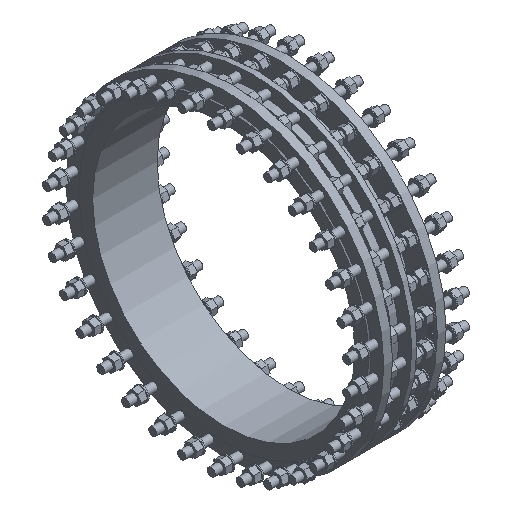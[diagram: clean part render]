
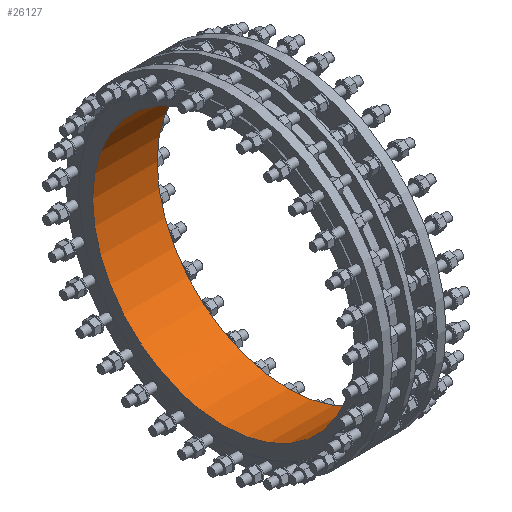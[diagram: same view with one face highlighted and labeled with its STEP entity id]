
A CAD part, isometric view. The second image highlights one B-rep face of the part: STEP entity #26127.
In plain terms, the highlighted cylindrical face has radius 600 mm (diameter 1200 mm), a full revolution.
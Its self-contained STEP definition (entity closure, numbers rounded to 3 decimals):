
#926 = CARTESIAN_POINT ( 'NONE',  ( 270., 0., 600. ) ) ;
#3364 = CARTESIAN_POINT ( 'NONE',  ( -25., 0., 0. ) ) ;
#4972 = EDGE_LOOP ( 'NONE', ( #38620 ) ) ;
#8272 = CIRCLE ( 'NONE', #38092, 600. ) ;
#10988 = FACE_OUTER_BOUND ( 'NONE', #37918, .T. ) ;
#11185 = ORIENTED_EDGE ( 'NONE', *, *, #14876, .F. ) ;
#14435 = FACE_OUTER_BOUND ( 'NONE', #4972, .T. ) ;
#14876 = EDGE_CURVE ( 'NONE', #45677, #45677, #8272, .T. ) ;
#16117 = CARTESIAN_POINT ( 'NONE',  ( -25., 0., 0. ) ) ;
#17390 = CYLINDRICAL_SURFACE ( 'NONE', #18846, 600. ) ;
#18846 = AXIS2_PLACEMENT_3D ( 'NONE', #3364, #48361, #32859 ) ;
#23666 = CARTESIAN_POINT ( 'NONE',  ( 270., 0., 0. ) ) ;
#24209 = DIRECTION ( 'NONE',  ( -1., 0., 0. ) ) ;
#26127 = ADVANCED_FACE ( 'NONE', ( #14435, #10988 ), #17390, .F. ) ;
#26297 = EDGE_CURVE ( 'NONE', #41331, #41331, #35334, .T. ) ;
#31519 = DIRECTION ( 'NONE',  ( -1., 0., 0. ) ) ;
#32859 = DIRECTION ( 'NONE',  ( 0., 0., 1. ) ) ;
#34978 = DIRECTION ( 'NONE',  ( 0., 0., 1. ) ) ;
#35334 = CIRCLE ( 'NONE', #46326, 600. ) ;
#37918 = EDGE_LOOP ( 'NONE', ( #11185 ) ) ;
#38092 = AXIS2_PLACEMENT_3D ( 'NONE', #23666, #31519, #34978 ) ;
#38620 = ORIENTED_EDGE ( 'NONE', *, *, #26297, .T. ) ;
#39208 = DIRECTION ( 'NONE',  ( 0., 0., 1. ) ) ;
#41331 = VERTEX_POINT ( 'NONE', #42055 ) ;
#42055 = CARTESIAN_POINT ( 'NONE',  ( -25., 0., 600. ) ) ;
#45677 = VERTEX_POINT ( 'NONE', #926 ) ;
#46326 = AXIS2_PLACEMENT_3D ( 'NONE', #16117, #24209, #39208 ) ;
#48361 = DIRECTION ( 'NONE',  ( -1., 0., 0. ) ) ;
